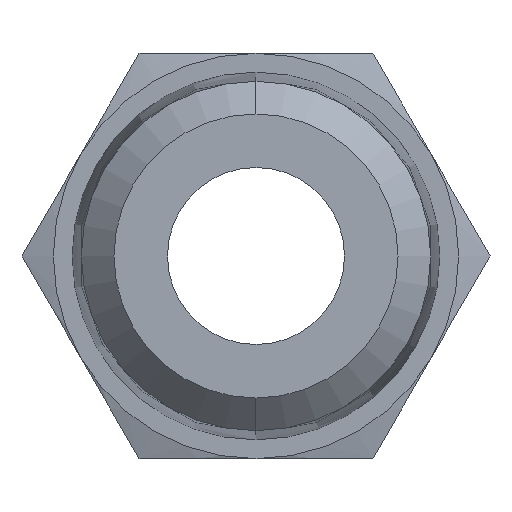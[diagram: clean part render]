
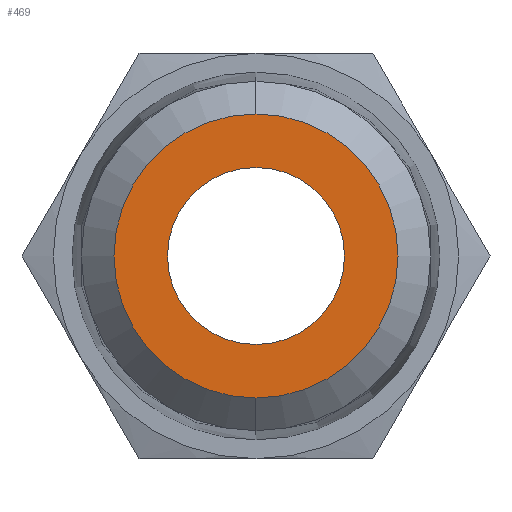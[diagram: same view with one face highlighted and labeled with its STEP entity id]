
A CAD part, left-side view. The second image highlights one B-rep face of the part: STEP entity #469.
In plain terms, the highlighted planar face has unit normal (-1, 0, 0).
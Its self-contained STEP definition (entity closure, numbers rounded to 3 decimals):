
#8 = EDGE_CURVE ( 'NONE', #9, #10, #512, .T. ) ;
#9 = VERTEX_POINT ( 'NONE', #507 ) ;
#10 = VERTEX_POINT ( 'NONE', #506 ) ;
#93 = EDGE_CURVE ( 'NONE', #94, #95, #741, .T. ) ;
#94 = VERTEX_POINT ( 'NONE', #736 ) ;
#95 = VERTEX_POINT ( 'NONE', #735 ) ;
#390 = EDGE_CURVE ( 'NONE', #95, #94, #1614, .T. ) ;
#453 = ORIENTED_EDGE ( 'NONE', *, *, #454, .T. ) ;
#454 = EDGE_CURVE ( 'NONE', #10, #9, #1267, .T. ) ;
#455 = ORIENTED_EDGE ( 'NONE', *, *, #8, .T. ) ;
#456 = EDGE_LOOP ( 'NONE', ( #457, #458 ) ) ;
#457 = ORIENTED_EDGE ( 'NONE', *, *, #93, .F. ) ;
#458 = ORIENTED_EDGE ( 'NONE', *, *, #390, .F. ) ;
#469 = ADVANCED_FACE ( 'NONE', ( #1248, #1243 ), #1242, .T. ) ;
#470 = EDGE_LOOP ( 'NONE', ( #453, #455 ) ) ;
#506 = CARTESIAN_POINT ( 'NONE',  ( -19., 0., -8.344 ) ) ;
#507 = CARTESIAN_POINT ( 'NONE',  ( -19., 0., 8.344 ) ) ;
#508 = DIRECTION ( 'NONE',  ( 0., 0., 1. ) ) ;
#509 = DIRECTION ( 'NONE',  ( -1., 0., 0. ) ) ;
#510 = CARTESIAN_POINT ( 'NONE',  ( -19., 0., 0. ) ) ;
#511 = AXIS2_PLACEMENT_3D ( 'NONE', #510, #509, #508 ) ;
#512 = CIRCLE ( 'NONE', #511, 8.344 ) ;
#735 = CARTESIAN_POINT ( 'NONE',  ( -19., 0., 5.2 ) ) ;
#736 = CARTESIAN_POINT ( 'NONE',  ( -19., 0., -5.2 ) ) ;
#737 = DIRECTION ( 'NONE',  ( 0., 0., 1. ) ) ;
#738 = DIRECTION ( 'NONE',  ( -1., 0., 0. ) ) ;
#739 = CARTESIAN_POINT ( 'NONE',  ( -19., 0., 0. ) ) ;
#740 = AXIS2_PLACEMENT_3D ( 'NONE', #739, #738, #737 ) ;
#741 = CIRCLE ( 'NONE', #740, 5.2 ) ;
#1237 = DIRECTION ( 'NONE',  ( 0., 0., 1. ) ) ;
#1238 = DIRECTION ( 'NONE',  ( -1., 0., 0. ) ) ;
#1239 = AXIS2_PLACEMENT_3D ( 'NONE', #1241, #1238, #1237 ) ;
#1241 = CARTESIAN_POINT ( 'NONE',  ( -19., 0., 0. ) ) ;
#1242 = PLANE ( 'NONE',  #1239 ) ;
#1243 = FACE_BOUND ( 'NONE', #456, .T. ) ;
#1248 = FACE_OUTER_BOUND ( 'NONE', #470, .T. ) ;
#1256 = DIRECTION ( 'NONE',  ( 0., 0., 1. ) ) ;
#1257 = DIRECTION ( 'NONE',  ( -1., 0., 0. ) ) ;
#1258 = CARTESIAN_POINT ( 'NONE',  ( -19., 0., 0. ) ) ;
#1259 = AXIS2_PLACEMENT_3D ( 'NONE', #1258, #1257, #1256 ) ;
#1267 = CIRCLE ( 'NONE', #1259, 8.344 ) ;
#1611 = DIRECTION ( 'NONE',  ( 0., 0., 1. ) ) ;
#1612 = DIRECTION ( 'NONE',  ( -1., 0., 0. ) ) ;
#1613 = AXIS2_PLACEMENT_3D ( 'NONE', #1642, #1612, #1611 ) ;
#1614 = CIRCLE ( 'NONE', #1613, 5.2 ) ;
#1642 = CARTESIAN_POINT ( 'NONE',  ( -19., 0., 0. ) ) ;
